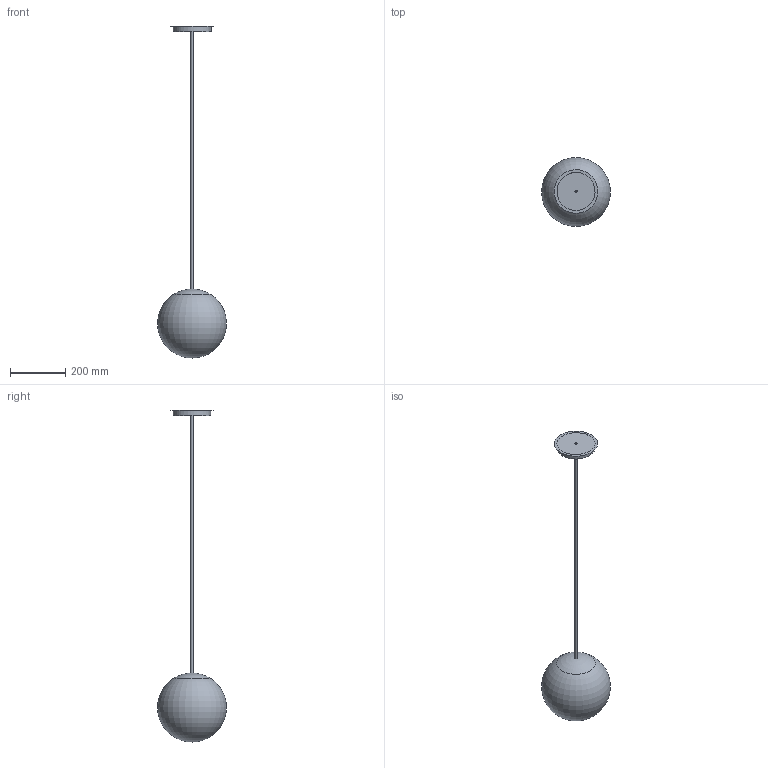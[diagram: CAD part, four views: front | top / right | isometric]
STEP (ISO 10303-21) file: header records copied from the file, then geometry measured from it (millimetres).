
FILE_DESCRIPTION(('STEP AP214'),'1');
FILE_NAME('Muna_250.stp','2018-12-19T00:24:00',(' '),(' '),'Spatial InterOp 3D',' ',' ');
FILE_SCHEMA(('AUTOMOTIVE_DESIGN { 1 0 10303 214 1 1 1 1 }'));
Length unit declared in the file: millimetre
Products named in the file (1): Bry_a
Bounding box: 249.81 x 249.94 x 1204.1 mm (x, y, z)
Volume: 8479315.5 mm3; surface area: 305955.1 mm2
Topology: 3 solids, 6 shells, 14 faces, 40 edges, 32 vertices
Faces by surface type: bspline 14
Entity records: 5570 total; most frequent: CARTESIAN_POINT 5292, ORIENTED_EDGE 45, EDGE_CURVE 28, VERTEX_POINT 28, DIRECTION 24, EDGE_LOOP 23, B_SPLINE_CURVE_WITH_KNOTS 22, B_SPLINE_SURFACE_WITH_KNOTS 14
